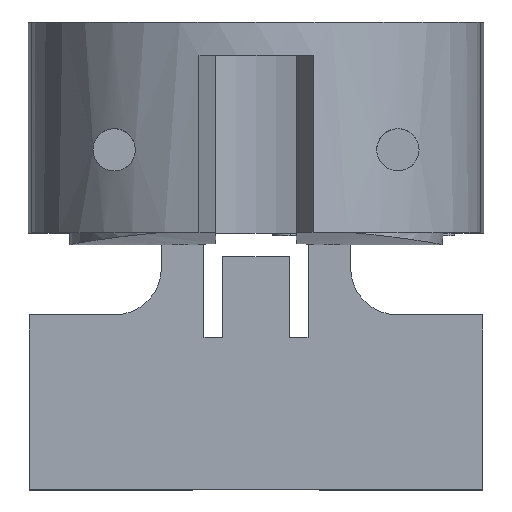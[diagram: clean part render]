
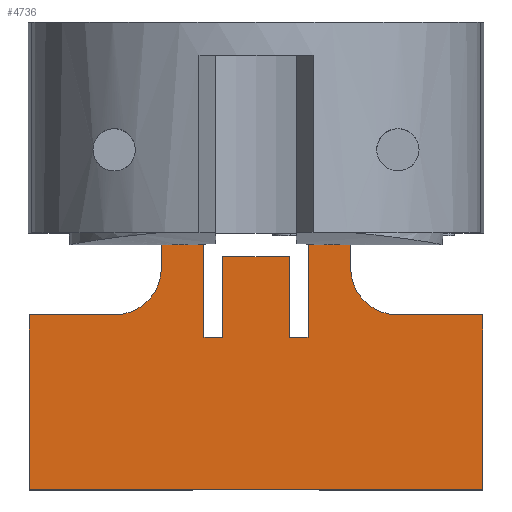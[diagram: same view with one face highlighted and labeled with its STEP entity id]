
A CAD part, top view. The second image highlights one B-rep face of the part: STEP entity #4736.
In plain terms, the highlighted planar face has unit normal (0, 0, 1).
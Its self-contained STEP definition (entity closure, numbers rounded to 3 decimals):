
#181=CARTESIAN_POINT(' ',(2.2,0.,-12.491));
#182=VERTEX_POINT(' ',#181);
#196=CARTESIAN_POINT(' ',(2.2,0.,-12.491));
#201=DIRECTION(' ',(1.,0.,0.));
#206=VECTOR(' ',#201,1.);
#211=LINE('',#196,#206);
#216=CARTESIAN_POINT(' ',(4.,0.,-12.491));
#217=VERTEX_POINT(' ',#216);
#221=EDGE_CURVE(' ',#182,#217,#211,.T.);
#1186=CARTESIAN_POINT(' ',(-4.,0.,-12.491));
#1187=VERTEX_POINT(' ',#1186);
#1201=CARTESIAN_POINT(' ',(-4.,0.,-12.491));
#1206=DIRECTION(' ',(1.,0.,0.));
#1211=VECTOR(' ',#1206,1.);
#1216=LINE('',#1201,#1211);
#1221=CARTESIAN_POINT(' ',(-2.2,0.,-12.491));
#1222=VERTEX_POINT(' ',#1221);
#1226=EDGE_CURVE(' ',#1187,#1222,#1216,.T.);
#4091=CARTESIAN_POINT(' ',(2.2,-4.4,-12.491));
#4092=VERTEX_POINT(' ',#4091);
#4106=CARTESIAN_POINT(' ',(2.2,0.,-12.491));
#4111=DIRECTION(' ',(0.,-1.,0.));
#4116=VECTOR(' ',#4111,1.);
#4121=LINE('',#4106,#4116);
#4126=EDGE_CURVE(' ',#182,#4092,#4121,.T.);
#4161=CARTESIAN_POINT(' ',(9.6,-10.85,-12.491));
#4166=DIRECTION(' ',(-0.,-0.,1.));
#4171=DIRECTION(' ',(0.,1.,0.));
#4176=AXIS2_PLACEMENT_3D(' ',#4161,#4166,#4171);
#4181=PLANE(' ',#4176);
#4186=ORIENTED_EDGE(' ',*,*,#4126,.T.);
#4191=CARTESIAN_POINT(' ',(2.2,-4.4,-12.491));
#4196=DIRECTION(' ',(-1.,0.,0.));
#4201=VECTOR(' ',#4196,1.);
#4206=LINE('',#4191,#4201);
#4211=CARTESIAN_POINT(' ',(1.4,-4.4,-12.491));
#4212=VERTEX_POINT(' ',#4211);
#4216=EDGE_CURVE(' ',#4092,#4212,#4206,.T.);
#4221=ORIENTED_EDGE(' ',*,*,#4216,.T.);
#4226=CARTESIAN_POINT(' ',(1.4,-4.4,-12.491));
#4231=DIRECTION(' ',(0.,1.,0.));
#4236=VECTOR(' ',#4231,1.);
#4241=LINE('',#4226,#4236);
#4246=CARTESIAN_POINT(' ',(1.4,-1.,-12.491));
#4247=VERTEX_POINT(' ',#4246);
#4251=EDGE_CURVE(' ',#4212,#4247,#4241,.T.);
#4256=ORIENTED_EDGE(' ',*,*,#4251,.T.);
#4261=CARTESIAN_POINT(' ',(1.4,-1.,-12.491));
#4266=DIRECTION(' ',(-1.,0.,0.));
#4271=VECTOR(' ',#4266,1.);
#4276=LINE('',#4261,#4271);
#4281=CARTESIAN_POINT(' ',(-1.4,-1.,-12.491));
#4282=VERTEX_POINT(' ',#4281);
#4286=EDGE_CURVE(' ',#4247,#4282,#4276,.T.);
#4291=ORIENTED_EDGE(' ',*,*,#4286,.T.);
#4296=CARTESIAN_POINT(' ',(-1.4,-1.,-12.491));
#4301=DIRECTION(' ',(0.,-1.,0.));
#4306=VECTOR(' ',#4301,1.);
#4311=LINE('',#4296,#4306);
#4316=CARTESIAN_POINT(' ',(-1.4,-4.4,-12.491));
#4317=VERTEX_POINT(' ',#4316);
#4321=EDGE_CURVE(' ',#4282,#4317,#4311,.T.);
#4326=ORIENTED_EDGE(' ',*,*,#4321,.T.);
#4331=CARTESIAN_POINT(' ',(-1.4,-4.4,-12.491));
#4336=DIRECTION(' ',(-1.,0.,0.));
#4341=VECTOR(' ',#4336,1.);
#4346=LINE('',#4331,#4341);
#4351=CARTESIAN_POINT(' ',(-2.2,-4.4,-12.491));
#4352=VERTEX_POINT(' ',#4351);
#4356=EDGE_CURVE(' ',#4317,#4352,#4346,.T.);
#4361=ORIENTED_EDGE(' ',*,*,#4356,.T.);
#4366=CARTESIAN_POINT(' ',(-2.2,-4.4,-12.491));
#4371=DIRECTION(' ',(0.,1.,0.));
#4376=VECTOR(' ',#4371,1.);
#4381=LINE('',#4366,#4376);
#4386=EDGE_CURVE(' ',#4352,#1222,#4381,.T.);
#4391=ORIENTED_EDGE(' ',*,*,#4386,.T.);
#4396=ORIENTED_EDGE(' ',*,*,#1226,.F.);
#4401=CARTESIAN_POINT(' ',(-4.,-1.45,-12.491));
#4406=DIRECTION(' ',(0.,1.,0.));
#4411=VECTOR(' ',#4406,1.);
#4416=LINE('',#4401,#4411);
#4421=CARTESIAN_POINT(' ',(-4.,-1.45,-12.491));
#4422=VERTEX_POINT(' ',#4421);
#4426=EDGE_CURVE(' ',#4422,#1187,#4416,.T.);
#4431=ORIENTED_EDGE(' ',*,*,#4426,.F.);
#4436=CARTESIAN_POINT(' ',(-6.,-1.45,-12.491));
#4441=DIRECTION(' ',(0.,-0.,1.));
#4446=DIRECTION(' ',(0.,-1.,0.));
#4451=AXIS2_PLACEMENT_3D(' ',#4436,#4441,#4446);
#4456=CIRCLE('',#4451,2.);
#4461=CARTESIAN_POINT(' ',(-6.,-3.45,-12.491));
#4462=VERTEX_POINT(' ',#4461);
#4466=EDGE_CURVE(' ',#4462,#4422,#4456,.T.);
#4471=ORIENTED_EDGE(' ',*,*,#4466,.F.);
#4476=CARTESIAN_POINT(' ',(-9.6,-3.45,-12.491));
#4481=DIRECTION(' ',(1.,0.,0.));
#4486=VECTOR(' ',#4481,1.);
#4491=LINE('',#4476,#4486);
#4496=CARTESIAN_POINT(' ',(-9.6,-3.45,-12.491));
#4497=VERTEX_POINT(' ',#4496);
#4501=EDGE_CURVE(' ',#4497,#4462,#4491,.T.);
#4506=ORIENTED_EDGE(' ',*,*,#4501,.F.);
#4511=CARTESIAN_POINT(' ',(-9.6,-10.85,-12.491));
#4516=DIRECTION(' ',(0.,1.,0.));
#4521=VECTOR(' ',#4516,1.);
#4526=LINE('',#4511,#4521);
#4531=CARTESIAN_POINT(' ',(-9.6,-10.85,-12.491));
#4532=VERTEX_POINT(' ',#4531);
#4536=EDGE_CURVE(' ',#4532,#4497,#4526,.T.);
#4541=ORIENTED_EDGE(' ',*,*,#4536,.F.);
#4546=CARTESIAN_POINT(' ',(9.6,-10.85,-12.491));
#4551=DIRECTION(' ',(-1.,0.,0.));
#4556=VECTOR(' ',#4551,1.);
#4561=LINE('',#4546,#4556);
#4566=CARTESIAN_POINT(' ',(9.6,-10.85,-12.491));
#4567=VERTEX_POINT(' ',#4566);
#4571=EDGE_CURVE(' ',#4567,#4532,#4561,.T.);
#4576=ORIENTED_EDGE(' ',*,*,#4571,.F.);
#4581=CARTESIAN_POINT(' ',(9.6,-3.45,-12.491));
#4586=DIRECTION(' ',(0.,-1.,0.));
#4591=VECTOR(' ',#4586,1.);
#4596=LINE('',#4581,#4591);
#4601=CARTESIAN_POINT(' ',(9.6,-3.45,-12.491));
#4602=VERTEX_POINT(' ',#4601);
#4606=EDGE_CURVE(' ',#4602,#4567,#4596,.T.);
#4611=ORIENTED_EDGE(' ',*,*,#4606,.F.);
#4616=CARTESIAN_POINT(' ',(6.,-3.45,-12.491));
#4621=DIRECTION(' ',(1.,0.,0.));
#4626=VECTOR(' ',#4621,1.);
#4631=LINE('',#4616,#4626);
#4636=CARTESIAN_POINT(' ',(6.,-3.45,-12.491));
#4637=VERTEX_POINT(' ',#4636);
#4641=EDGE_CURVE(' ',#4637,#4602,#4631,.T.);
#4646=ORIENTED_EDGE(' ',*,*,#4641,.F.);
#4651=CARTESIAN_POINT(' ',(6.,-1.45,-12.491));
#4656=DIRECTION(' ',(-0.,-0.,1.));
#4661=DIRECTION(' ',(-1.,0.,0.));
#4666=AXIS2_PLACEMENT_3D(' ',#4651,#4656,#4661);
#4671=CIRCLE('',#4666,2.);
#4676=CARTESIAN_POINT(' ',(4.,-1.45,-12.491));
#4677=VERTEX_POINT(' ',#4676);
#4681=EDGE_CURVE(' ',#4677,#4637,#4671,.T.);
#4686=ORIENTED_EDGE(' ',*,*,#4681,.F.);
#4691=CARTESIAN_POINT(' ',(4.,0.,-12.491));
#4696=DIRECTION(' ',(0.,-1.,0.));
#4701=VECTOR(' ',#4696,1.);
#4706=LINE('',#4691,#4701);
#4711=EDGE_CURVE(' ',#217,#4677,#4706,.T.);
#4716=ORIENTED_EDGE(' ',*,*,#4711,.F.);
#4721=ORIENTED_EDGE(' ',*,*,#221,.F.);
#4726=EDGE_LOOP(' ',(#4186,#4221,#4256,#4291,#4326,#4361,#4391,#4396,#4431,#4471,#4506,#4541,#4576,#4611,#4646,#4686,#4716,#4721));
#4731=FACE_OUTER_BOUND(' ',#4726,.T.);
#4736=ADVANCED_FACE('',(#4731),#4181,.T.);
